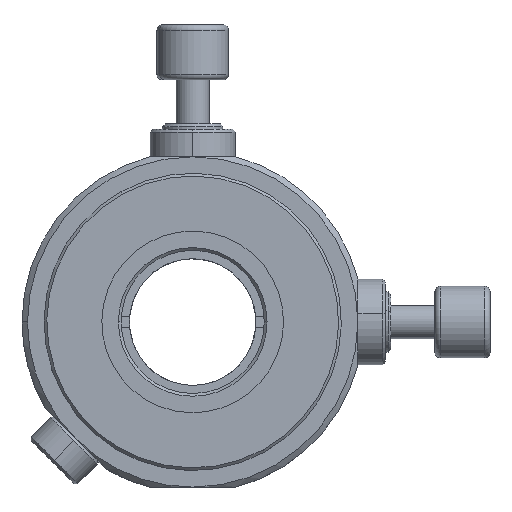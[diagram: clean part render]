
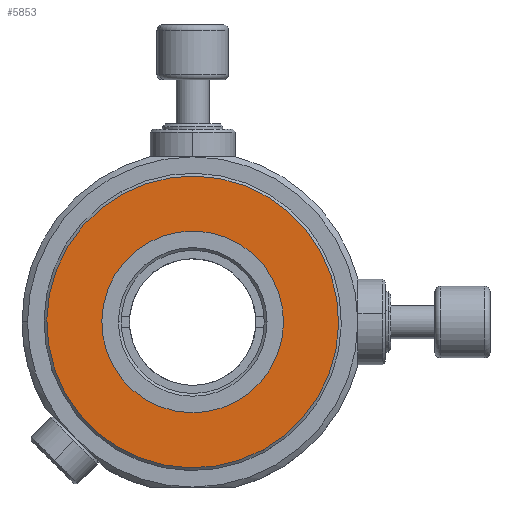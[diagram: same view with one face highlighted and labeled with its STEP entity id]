
A CAD part, top view. The second image highlights one B-rep face of the part: STEP entity #5853.
In plain terms, the highlighted planar face has unit normal (0, 0, 1).
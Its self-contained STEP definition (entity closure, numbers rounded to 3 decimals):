
#196 = PLANE ( 'NONE',  #6433 ) ;
#458 = FACE_OUTER_BOUND ( 'NONE', #473, .T. ) ;
#473 = EDGE_LOOP ( 'NONE', ( #5913, #1391 ) ) ;
#742 = EDGE_CURVE ( 'NONE', #6171, #1960, #1502, .T. ) ;
#1243 = DIRECTION ( 'NONE',  ( 0., 0., -1. ) ) ;
#1362 = DIRECTION ( 'NONE',  ( -0.483, 0.876, 0. ) ) ;
#1391 = ORIENTED_EDGE ( 'NONE', *, *, #7392, .T. ) ;
#1502 = CIRCLE ( 'NONE', #3660, 26.5 ) ;
#1732 = CARTESIAN_POINT ( 'NONE',  ( -11.366, 23.001, 23. ) ) ;
#1960 = VERTEX_POINT ( 'NONE', #7391 ) ;
#2337 = CARTESIAN_POINT ( 'NONE',  ( 1.422, -0.209, 23. ) ) ;
#2931 = EDGE_CURVE ( 'NONE', #4159, #6700, #3727, .T. ) ;
#3085 = ORIENTED_EDGE ( 'NONE', *, *, #2931, .T. ) ;
#3365 = EDGE_CURVE ( 'NONE', #6700, #4159, #3580, .T. ) ;
#3580 = CIRCLE ( 'NONE', #3723, 16.5 ) ;
#3660 = AXIS2_PLACEMENT_3D ( 'NONE', #3846, #6793, #5623 ) ;
#3723 = AXIS2_PLACEMENT_3D ( 'NONE', #2337, #6589, #1362 ) ;
#3727 = CIRCLE ( 'NONE', #6405, 16.5 ) ;
#3765 = CARTESIAN_POINT ( 'NONE',  ( 1.422, -0.209, 23. ) ) ;
#3846 = CARTESIAN_POINT ( 'NONE',  ( 1.422, -0.209, 23. ) ) ;
#4159 = VERTEX_POINT ( 'NONE', #4171 ) ;
#4171 = CARTESIAN_POINT ( 'NONE',  ( -6.541, 14.242, 23. ) ) ;
#4382 = DIRECTION ( 'NONE',  ( -0.483, 0.876, 0. ) ) ;
#4721 = DIRECTION ( 'NONE',  ( -0.483, 0.876, 0. ) ) ;
#4868 = CARTESIAN_POINT ( 'NONE',  ( 1.422, -0.209, 23. ) ) ;
#5415 = DIRECTION ( 'NONE',  ( 0., 0., -1. ) ) ;
#5620 = CIRCLE ( 'NONE', #5646, 26.5 ) ;
#5623 = DIRECTION ( 'NONE',  ( -0.483, 0.876, 0. ) ) ;
#5646 = AXIS2_PLACEMENT_3D ( 'NONE', #6312, #5750, #6913 ) ;
#5750 = DIRECTION ( 'NONE',  ( 0., 0., 1. ) ) ;
#5790 = ORIENTED_EDGE ( 'NONE', *, *, #3365, .T. ) ;
#5853 = ADVANCED_FACE ( 'NONE', ( #458, #5916 ), #196, .F. ) ;
#5913 = ORIENTED_EDGE ( 'NONE', *, *, #742, .T. ) ;
#5916 = FACE_BOUND ( 'NONE', #6656, .T. ) ;
#6171 = VERTEX_POINT ( 'NONE', #1732 ) ;
#6312 = CARTESIAN_POINT ( 'NONE',  ( 1.422, -0.209, 23. ) ) ;
#6405 = AXIS2_PLACEMENT_3D ( 'NONE', #3765, #5415, #4382 ) ;
#6433 = AXIS2_PLACEMENT_3D ( 'NONE', #4868, #1243, #4721 ) ;
#6589 = DIRECTION ( 'NONE',  ( 0., 0., -1. ) ) ;
#6656 = EDGE_LOOP ( 'NONE', ( #3085, #5790 ) ) ;
#6700 = VERTEX_POINT ( 'NONE', #6750 ) ;
#6750 = CARTESIAN_POINT ( 'NONE',  ( 9.384, -14.661, 23. ) ) ;
#6793 = DIRECTION ( 'NONE',  ( 0., 0., 1. ) ) ;
#6913 = DIRECTION ( 'NONE',  ( -0.483, 0.876, 0. ) ) ;
#7391 = CARTESIAN_POINT ( 'NONE',  ( 14.21, -23.42, 23. ) ) ;
#7392 = EDGE_CURVE ( 'NONE', #1960, #6171, #5620, .T. ) ;
